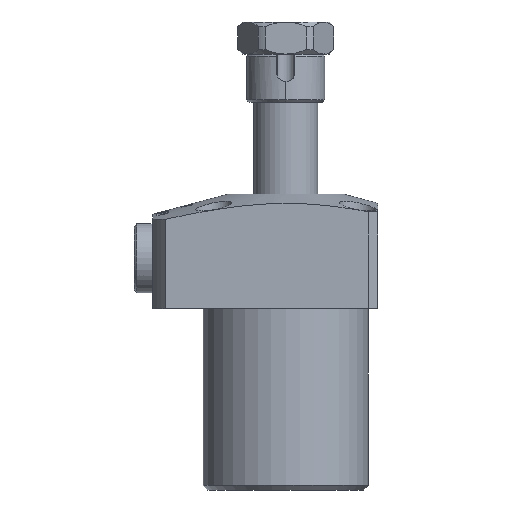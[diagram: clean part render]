
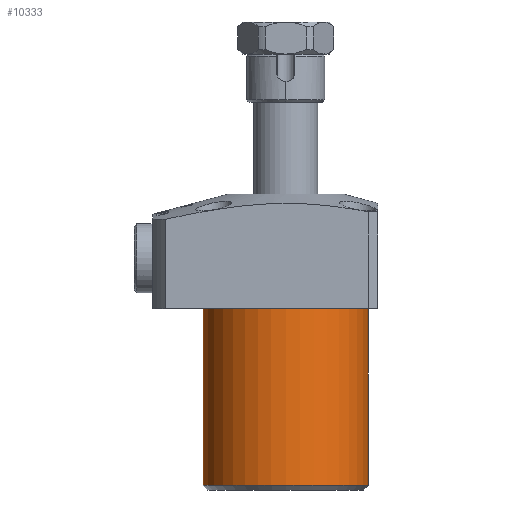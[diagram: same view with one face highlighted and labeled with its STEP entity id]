
A CAD part, front view. The second image highlights one B-rep face of the part: STEP entity #10333.
In plain terms, the highlighted cylindrical face has radius 18 mm (diameter 36 mm), a partial arc.
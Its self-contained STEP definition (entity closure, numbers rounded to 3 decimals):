
#516 = DIRECTION ( 'NONE',  ( 1., 0., 0. ) ) ;
#960 = CARTESIAN_POINT ( 'NONE',  ( 18., 0., 0. ) ) ;
#996 = AXIS2_PLACEMENT_3D ( 'NONE', #3252, #3230, #3213 ) ;
#1896 = CYLINDRICAL_SURFACE ( 'NONE', #12544, 18. ) ;
#1973 = VECTOR ( 'NONE', #5471, 1000. ) ;
#2491 = VERTEX_POINT ( 'NONE', #5780 ) ;
#2490 = CARTESIAN_POINT ( 'NONE',  ( 18., 0., -38.5 ) ) ;
#3213 = DIRECTION ( 'NONE',  ( -1., 0., 0. ) ) ;
#3230 = DIRECTION ( 'NONE',  ( 0., 0., 1. ) ) ;
#3252 = CARTESIAN_POINT ( 'NONE',  ( 0., 0., -38.5 ) ) ;
#3725 = LINE ( 'NONE', #15566, #14130 ) ;
#4294 = EDGE_CURVE ( 'NONE', #2491, #5984, #9124, .T. ) ;
#5222 = CARTESIAN_POINT ( 'NONE',  ( 0., 0., 0. ) ) ;
#5287 = EDGE_CURVE ( 'NONE', #5984, #12717, #5619, .T. ) ;
#5471 = DIRECTION ( 'NONE',  ( 0., 0., 1. ) ) ;
#5619 = LINE ( 'NONE', #12018, #1973 ) ;
#5780 = CARTESIAN_POINT ( 'NONE',  ( -18., 0., -38.5 ) ) ;
#5984 = VERTEX_POINT ( 'NONE', #2490 ) ;
#6277 = EDGE_CURVE ( 'NONE', #2491, #16100, #3725, .T. ) ;
#6553 = DIRECTION ( 'NONE',  ( -1., 0., 0. ) ) ;
#7495 = EDGE_LOOP ( 'NONE', ( #11144, #15896, #14548, #15334 ) ) ;
#7958 = DIRECTION ( 'NONE',  ( 0., 0., 1. ) ) ;
#8732 = DIRECTION ( 'NONE',  ( 0., 0., 1. ) ) ;
#9124 = CIRCLE ( 'NONE', #996, 18. ) ;
#10333 = ADVANCED_FACE ( 'NONE', ( #12900 ), #1896, .T. ) ;
#11144 = ORIENTED_EDGE ( 'NONE', *, *, #6277, .F. ) ;
#12018 = CARTESIAN_POINT ( 'NONE',  ( 18., 0., -39.5 ) ) ;
#12285 = CIRCLE ( 'NONE', #14315, 18. ) ;
#12544 = AXIS2_PLACEMENT_3D ( 'NONE', #13689, #8732, #516 ) ;
#12717 = VERTEX_POINT ( 'NONE', #960 ) ;
#12737 = EDGE_CURVE ( 'NONE', #12717, #16100, #12285, .T. ) ;
#12900 = FACE_OUTER_BOUND ( 'NONE', #7495, .T. ) ;
#13689 = CARTESIAN_POINT ( 'NONE',  ( 0., 0., -39.5 ) ) ;
#14130 = VECTOR ( 'NONE', #7958, 1000. ) ;
#14288 = DIRECTION ( 'NONE',  ( 0., 0., -1. ) ) ;
#14315 = AXIS2_PLACEMENT_3D ( 'NONE', #5222, #14288, #6553 ) ;
#14548 = ORIENTED_EDGE ( 'NONE', *, *, #5287, .T. ) ;
#14616 = CARTESIAN_POINT ( 'NONE',  ( -18., 0., 0. ) ) ;
#15334 = ORIENTED_EDGE ( 'NONE', *, *, #12737, .T. ) ;
#15566 = CARTESIAN_POINT ( 'NONE',  ( -18., 0., -39.5 ) ) ;
#15896 = ORIENTED_EDGE ( 'NONE', *, *, #4294, .T. ) ;
#16100 = VERTEX_POINT ( 'NONE', #14616 ) ;
